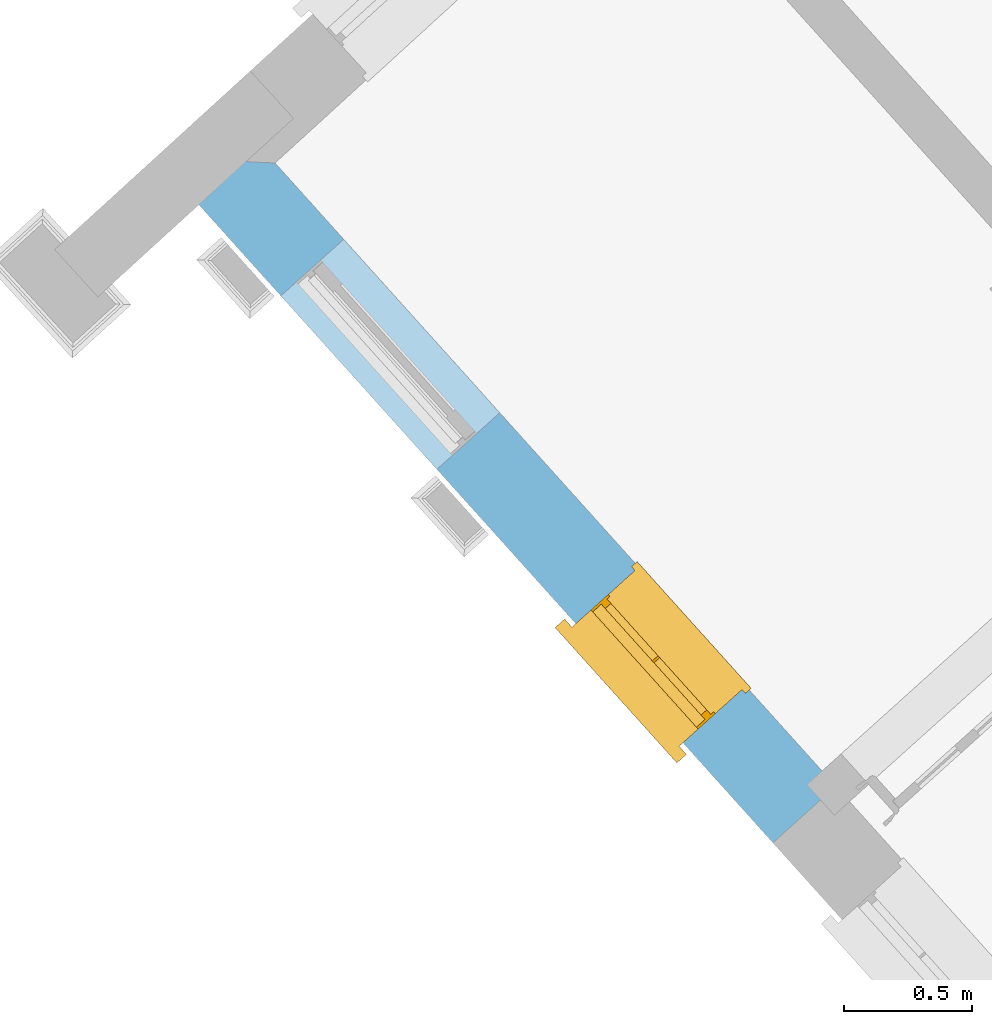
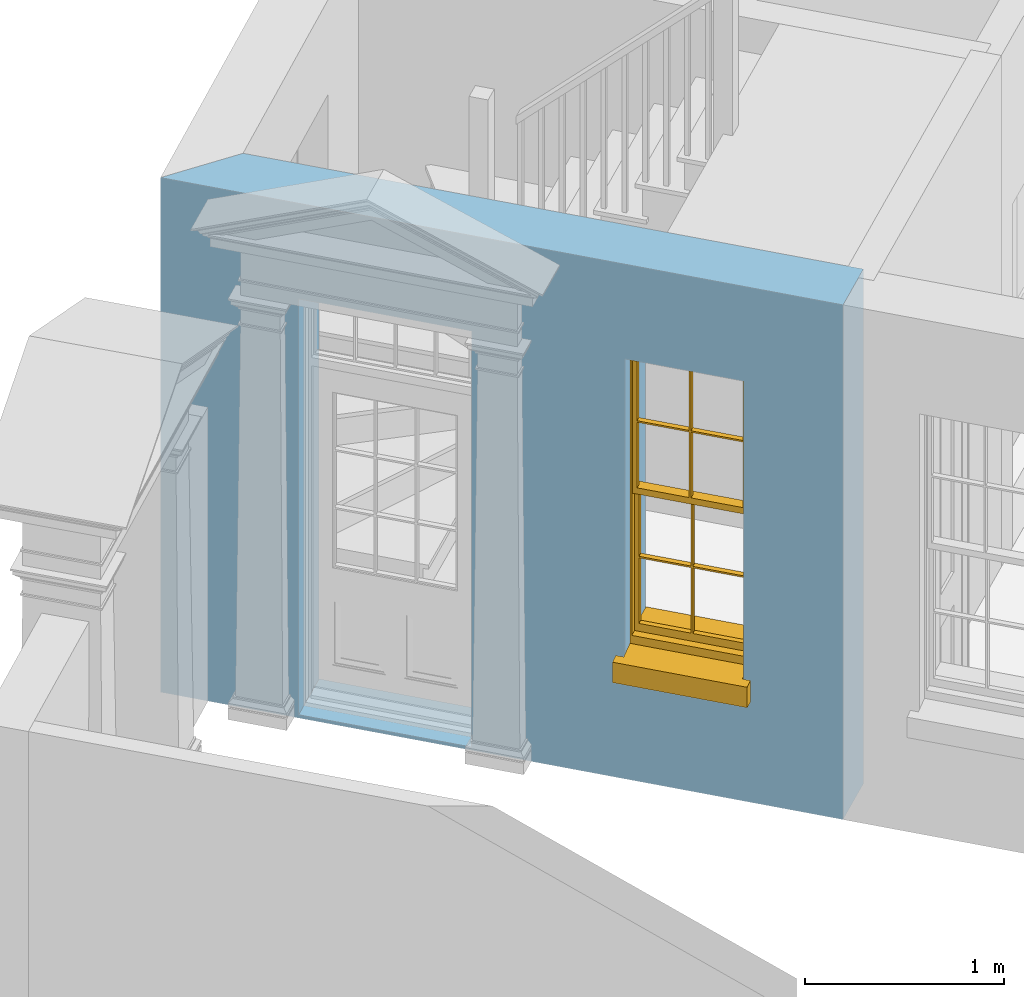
# One storey, part 4 of 7: 1 window, 2 openings, plus 1 element that does not belong to this part.
"""IFC4 building model written with IfcOpenShell, lengths in metres."""

from ifc_helpers import new_model, si_unit, frame, origin, origin_with_axes, place, context, subcontext, project, spatial, polyline, outline, extrude, faceted_brep, source, transform, mapped, material, layer, layer_set, layer_usage, type_object, type_shapes, element, fill, save


model = new_model("IFC4")

# Units and contexts
model_context = context("Model", 3, world=origin_with_axes())
body_context = subcontext(model_context, "Body", "Model", "MODEL_VIEW")
ifc_project = project(units=[si_unit("PLANEANGLEUNIT", "RADIAN"), si_unit("MASSUNIT", "GRAM", prefix="KILO"), si_unit("FORCEUNIT", "NEWTON", prefix="KILO"), si_unit("LENGTHUNIT", "METRE"), si_unit("AREAUNIT", "SQUARE_METRE"), si_unit("VOLUMEUNIT", "CUBIC_METRE")], contexts=[model_context, model_context])

# Sites, building, storey
site_1_placement = place(None, origin_with_axes())
site_1 = spatial("IfcSite", under=ifc_project, at=site_1_placement, Name="Tamar")
site_2_placement = place(site_1_placement, origin_with_axes())
site_2 = spatial("IfcSite", under=site_1, at=site_2_placement, Name="Site plot-7", CompositionType="ELEMENT")
building_placement = place(None, origin_with_axes())
building = spatial("IfcBuilding", under=site_2, at=building_placement, Name="Building plot-7", CompositionType="ELEMENT")
storey_placement = place(None, frame((0.0, 0.0, 26.0), z_axis=(0.0, 0.0, 1.0), x_axis=(1.0, 0.0, 0.0)))
storey = spatial("IfcBuildingStorey", under=building, at=storey_placement, Name="plot-7 0", CompositionType="ELEMENT", Elevation=26.0)

# Wall, openings, window
ifc_material = material(Name="Masonry")
ifc_layer = layer(ifc_material, 0.33, ventilated=False)
ifc_layer_set = layer_set([ifc_layer], Name="exterior_0.08_0.25")
ifc_layer_usage = layer_usage(ifc_layer_set, "AXIS2", "POSITIVE", -0.25)
wall_type = type_object("IfcWallType", Name="exterior_0.08_0.25", PredefinedType="SOLIDWALL", material=ifc_layer_set)
wall_placement = place(storey_placement, frame((239.471954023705, 287.134500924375, 0.0), z_axis=(0.0, 0.0, 1.0), x_axis=(0.668853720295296, -0.743394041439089, 0.0)))
wall = element("IfcWall", 1, at=wall_placement, inside=storey, type_object=wall_type, material=ifc_layer_usage, Name="exterior", context=body_context, shape_type="SweptSolid", body=[
    extrude(outline(polyline([(0.0794323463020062, 0.0799999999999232), (-0.248226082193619, -0.250000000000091), (3.34994703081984, -0.250000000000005), (3.34994703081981, 0.0800000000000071), (0.0794323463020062, 0.0799999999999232)])), origin_with_axes(), (0.0, 0.0, 1.0), 3.15),
])
opening_1_placement = place(wall_placement, frame((0.479999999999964, 0.0, 0.0199999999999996)))
element("IfcOpeningElement", 2, at=opening_1_placement, cuts=wall, Name="My Opening", ObjectType="Opening", context=body_context, shape_type="SweptSolid", body=[
    extrude(outline(polyline([(0.0, -0.26999999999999), (0.909999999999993, -0.269999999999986), (0.910000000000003, 1.09999999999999), (9.49240686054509e-15, 1.09999999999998), (0.0, -0.26999999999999)])), origin_with_axes(), (0.0, 0.0, 1.0), 2.545),
])
opening_2_placement = place(wall_placement, frame((2.19996027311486, 0.0, 0.75)))
opening_2 = element("IfcOpeningElement", 3, at=opening_2_placement, cuts=wall, Name="My Opening", ObjectType="Opening", context=body_context, shape_type="SweptSolid", body=[
    extrude(outline(polyline([(0.0, -0.270000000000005), (0.624999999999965, -0.269999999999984), (0.624999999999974, 1.09999999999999), (9.76996261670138e-15, 1.09999999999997), (0.0, -0.270000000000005)])), origin_with_axes(), (0.0, 0.0, 1.0), 1.82),
])
window_type = type_object("IfcWindowType", Name="sash_narrow", PartitioningType="DOUBLE_PANEL_HORIZONTAL", PredefinedType="NOTDEFINED")
shared_shape = source(origin(), body_context, "Body", "Brep", [
    faceted_brep([(0.033125, 0.145, 0.975209), (0.01, 0.145, 0.975209), (0.033125, 0.145, 1.376042), (0.591875, 0.145, 0.975209), (0.591875, 0.145, 1.376042), (0.615, 0.145, 0.975209), (0.591875, 0.145, 1.386042), (0.591875, 0.145, 1.786875), (0.615, 0.145, 1.81), (0.033125, 0.145, 1.786875), (0.033125, 0.145, 1.386042), (0.01, 0.145, 1.81), (0.591875, 0.115, 1.376042), (0.591875, 0.115, 0.975209), (0.615, 0.115, 0.937083), (0.033125, 0.115, 1.786875), (0.01, 0.115, 1.81), (0.033125, 0.115, 1.386042), (0.01, 0.115, 0.937083), (0.033125, 0.115, 0.975209), (0.033125, 0.115, 1.376042), (0.591875, 0.115, 1.786875), (0.591875, 0.115, 1.386042), (0.615, 0.115, 1.81), (0.033125, 0.145, 0.937083), (0.01, 0.145, 0.937083), (0.033125, 0.145, 0.53625), (0.591875, 0.145, 0.937083), (0.591875, 0.145, 0.53625), (0.615, 0.145, 0.937083), (0.591875, 0.145, 0.52625), (0.591875, 0.145, 0.125417), (0.615, 0.145, 0.077167), (0.033125, 0.145, 0.125417), (0.033125, 0.145, 0.52625), (0.01, 0.145, 0.077167), (-0.0425, 0.0, 0.01), (-0.0425, -0.05, 0.001667), (0.0, 0.0, 0.01), (0.6675, 0.0, 0.01), (0.625, 0.0, 0.01), (0.6675, -0.05, 0.001667), (-0.02, 0.33, 0.077167), (0.0, 0.33, 0.077167), (-0.02, 0.36, 0.077167), (0.0, 0.19, 0.077167), (0.01, 0.19, 0.077167), (0.625, 0.19, 0.077167), (0.625, 0.33, 0.077167), (0.615, 0.19, 0.077167), (0.645, 0.33, 0.077167), (0.645, 0.36, 0.077167), (0.01, 0.175, 0.975209), (0.615, 0.175, 0.975209), (0.591875, 0.175, 0.125417), (0.591875, 0.175, 0.52625), (0.615, 0.175, 0.077167), (0.591875, 0.175, 0.53625), (0.591875, 0.175, 0.937083), (0.033125, 0.175, 0.125417), (0.01, 0.175, 0.077167), (0.033125, 0.175, 0.52625), (0.033125, 0.175, 0.937083), (0.033125, 0.175, 0.53625), (-0.02, 0.33, 0.052167), (-0.02, 0.36, 0.052167), (0.645, 0.36, 0.052167), (0.645, 0.33, 0.052167), (0.625, 0.33, 0.052167), (0.0, 0.33, 0.052167), (0.625, 0.1, 0.026667), (0.0, 0.1, 0.026667), (-0.0425, -0.05, -0.123333), (0.6675, -0.05, -0.123333), (-0.0425, 0.0, -0.123333), (0.6675, 0.0, -0.123333), (0.01, 0.19, 1.81), (0.615, 0.19, 1.81), (0.0, 0.19, 1.82), (0.625, 0.19, 1.82), (0.01, 0.1, 0.077167), (0.615, 0.1, 0.077167), (0.3175, 0.175, 0.53625), (0.3175, 0.145, 0.53625), (0.3175, 0.175, 0.52625), (0.3175, 0.175, 0.125417), (0.3075, 0.175, 0.125417), (0.3075, 0.175, 0.52625), (0.3075, 0.175, 0.53625), (0.3175, 0.175, 0.937083), (0.3075, 0.175, 0.937083), (0.3075, 0.145, 0.52625), (0.3075, 0.145, 0.125417), (0.3175, 0.145, 0.125417), (0.3175, 0.145, 0.52625), (0.3075, 0.145, 0.53625), (0.3075, 0.145, 0.937083), (0.3175, 0.145, 0.937083), (0.3075, 0.115, 1.386042), (0.3075, 0.115, 1.376042), (0.3175, 0.115, 1.376042), (0.3075, 0.115, 0.975209), (0.3175, 0.115, 0.975209), (0.3175, 0.115, 1.786875), (0.3075, 0.115, 1.786875), (0.3175, 0.115, 1.386042), (0.3175, 0.145, 1.386042), (0.3175, 0.145, 1.376042), (0.3075, 0.145, 1.386042), (0.3075, 0.145, 1.786875), (0.3175, 0.145, 1.786875), (0.3075, 0.145, 1.376042), (0.3175, 0.145, 0.975209), (0.3075, 0.145, 0.975209), (0.625, 0.1, 1.82), (0.615, 0.1, 1.81), (0.01, 0.1, 1.81), (0.0, 0.1, 1.82), (0.625, 0.0, 0.0), (0.0, 0.0, 0.0), (0.625, 0.33, 0.0), (0.0, 0.33, 0.0)], [[[0, 1, 2]], [[3, 4, 5]], [[6, 7, 8]], [[9, 10, 11]], [[12, 13, 14]], [[15, 16, 17]], [[18, 19, 20]], [[21, 22, 23]], [[24, 25, 26]], [[27, 28, 29]], [[30, 31, 32]], [[33, 34, 35]], [[14, 27, 29]], [[25, 24, 18]], [[36, 37, 38]], [[39, 40, 41]], [[42, 43, 44]], [[45, 46, 43]], [[47, 48, 49]], [[50, 51, 48]], [[1, 0, 52]], [[5, 53, 3]], [[54, 55, 56]], [[57, 58, 53]], [[59, 60, 61]], [[62, 63, 52]], [[48, 43, 46, 49]], [[51, 44, 43, 48]], [[64, 42, 44, 65]], [[65, 44, 51, 66]], [[66, 51, 50, 67]], [[65, 66, 68, 69]], [[60, 56, 49, 46]], [[70, 71, 38, 40]], [[37, 41, 40, 38]], [[37, 72, 73, 41]], [[74, 75, 73, 72]], [[8, 11, 76, 77]], [[76, 78, 79, 77]], [[32, 35, 80, 81]], [[81, 80, 71, 70]], [[28, 57, 82, 83]], [[84, 85, 86, 87]], [[88, 87, 61, 63]], [[89, 82, 88, 90]], [[84, 82, 57, 55]], [[91, 87, 86, 92]], [[34, 61, 87, 91]], [[93, 85, 84, 94]], [[95, 88, 63, 26]], [[96, 90, 88, 95]], [[83, 82, 89, 97]], [[94, 84, 55, 30]], [[94, 30, 28, 83]], [[94, 91, 92, 93]], [[95, 26, 34, 91]], [[97, 96, 95, 83]], [[98, 17, 20, 99]], [[100, 99, 101, 102]], [[103, 104, 98, 105]], [[100, 12, 22, 105]], [[106, 6, 4, 107]], [[106, 108, 109, 110]], [[111, 2, 10, 108]], [[112, 113, 111, 107]], [[99, 111, 113, 101]], [[20, 2, 111, 99]], [[102, 112, 107, 100]], [[98, 108, 10, 17]], [[104, 109, 108, 98]], [[105, 106, 110, 103]], [[22, 6, 106, 105]], [[100, 107, 4, 12]], [[82, 84, 87, 88]], [[83, 95, 91, 94]], [[99, 100, 105, 98]], [[107, 111, 108, 106]], [[92, 86, 59, 33]], [[15, 9, 109, 104]], [[103, 110, 7, 21]], [[31, 54, 85, 93]], [[36, 74, 72, 37]], [[39, 41, 73, 75]], [[18, 14, 102, 101]], [[23, 16, 104, 103]], [[85, 56, 60, 86]], [[52, 53, 89, 90]], [[53, 52, 113, 112]], [[11, 8, 110, 109]], [[14, 18, 96, 97]], [[2, 1, 11, 10]], [[8, 5, 4, 6]], [[57, 53, 56, 55]], [[60, 52, 63, 61]], [[26, 25, 35, 34]], [[32, 29, 28, 30]], [[14, 23, 22, 12]], [[18, 20, 17, 16]], [[19, 0, 2, 20]], [[17, 10, 9, 15]], [[12, 4, 3, 13]], [[21, 7, 6, 22]], [[27, 58, 57, 28]], [[30, 55, 54, 31]], [[33, 59, 61, 34]], [[26, 63, 62, 24]], [[5, 8, 77, 53]], [[76, 11, 1, 52]], [[46, 45, 78, 76]], [[49, 77, 79, 47]], [[70, 114, 115, 81]], [[71, 80, 116, 117]], [[19, 101, 113, 0]], [[102, 13, 3, 112]], [[90, 96, 24, 62]], [[29, 32, 81, 14]], [[80, 35, 25, 18]], [[60, 46, 76, 52]], [[77, 49, 56, 53]], [[23, 14, 81, 115]], [[16, 116, 80, 18]], [[92, 33, 35]], [[32, 31, 93]], [[32, 93, 92, 35]], [[14, 13, 102]], [[101, 19, 18]], [[103, 21, 23]], [[16, 15, 104]], [[109, 9, 11]], [[8, 7, 110]], [[23, 115, 116, 16]], [[114, 117, 116, 115]], [[90, 62, 52]], [[58, 89, 53]], [[27, 97, 89, 58]], [[85, 54, 56]], [[60, 59, 86]], [[97, 27, 14]], [[18, 24, 96]], [[52, 0, 113]], [[112, 3, 53]], [[79, 78, 117, 114]], [[78, 45, 71, 117]], [[114, 70, 47, 79]], [[118, 75, 74, 119]], [[68, 66, 67]], [[48, 68, 67, 50]], [[69, 64, 65]], [[42, 64, 69, 43]], [[69, 68, 120, 121]], [[70, 68, 48, 47]], [[118, 120, 68, 70]], [[43, 69, 71, 45]], [[69, 121, 119, 71]], [[120, 118, 119, 121]], [[38, 119, 74, 36]], [[71, 119, 38]], [[39, 75, 118, 40]], [[40, 118, 70]]]),
])
type_shapes(window_type, [shared_shape])
window_placement = place(storey_placement, frame((240.742689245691, 285.318473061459, 0.75), z_axis=(0.0, 0.0, 1.0), x_axis=(0.418033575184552, -0.46462127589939, 0.0)))
window = element("IfcWindow", 4, at=window_placement, inside=storey, type_object=window_type, Name="circulation outside window", OverallHeight=1.82, OverallWidth=0.625, context=body_context, shape_type="MappedRepresentation", body=[
    mapped(shared_shape, transform((0.0, 0.0, 0.0), scale=1.0)),
])
fill(opening_2, window)

save(model, "model.ifc")
